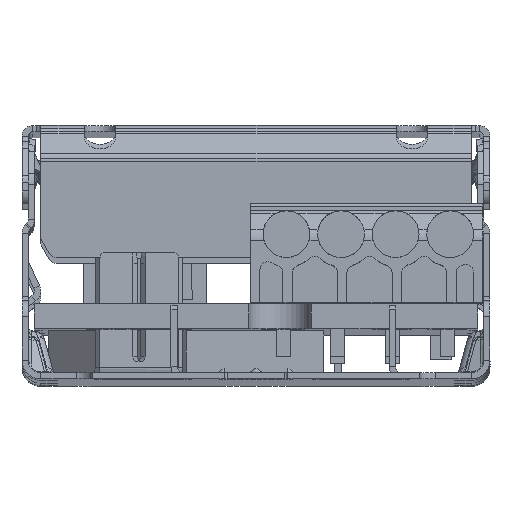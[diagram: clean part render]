
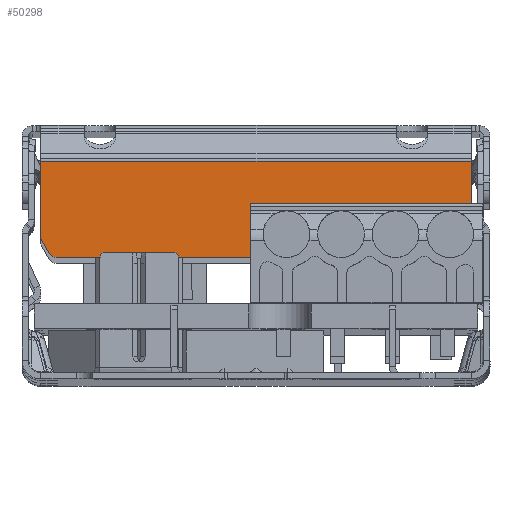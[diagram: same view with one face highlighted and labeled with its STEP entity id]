
A CAD part, top view. The second image highlights one B-rep face of the part: STEP entity #50298.
In plain terms, the highlighted planar face has unit normal (0, 0, 1).
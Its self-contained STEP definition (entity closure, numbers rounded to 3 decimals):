
#45412=DIRECTION('',(-1.,0.,0.));
#45413=VECTOR('',#45412,27.6);
#45414=CARTESIAN_POINT('',(3.925,-43.169,
35.096));
#45415=LINE('',#45414,#45413);
#45420=DIRECTION('',(-1.,0.,0.));
#45421=VECTOR('',#45420,4.6);
#45422=CARTESIAN_POINT('',(-0.075,-49.02,
35.096));
#45423=LINE('',#45422,#45421);
#45424=CARTESIAN_POINT('',(-4.675,-49.22,
35.096));
#45425=DIRECTION('',(0.,0.,1.));
#45426=DIRECTION('',(0.,1.,0.));
#45427=AXIS2_PLACEMENT_3D('',#45424,#45425,#45426);
#45429=DIRECTION('',(0.,-1.,0.));
#45430=VECTOR('',#45429,0.1);
#45431=CARTESIAN_POINT('',(-4.875,-49.22,
35.096));
#45432=LINE('',#45431,#45430);
#45433=DIRECTION('',(-1.,0.,0.));
#45434=VECTOR('',#45433,10.);
#45435=CARTESIAN_POINT('',(-4.875,-49.32,
35.096));
#45436=LINE('',#45435,#45434);
#45437=CARTESIAN_POINT('',(-15.075,-49.22,
35.096));
#45438=DIRECTION('',(0.,0.,1.));
#45439=DIRECTION('',(1.,0.,0.));
#45440=AXIS2_PLACEMENT_3D('',#45437,#45438,#45439);
#45442=DIRECTION('',(-1.,0.,0.));
#45443=VECTOR('',#45442,4.6);
#45444=CARTESIAN_POINT('',(-15.075,-49.02,
35.096));
#45445=LINE('',#45444,#45443);
#45446=CARTESIAN_POINT('',(-19.675,-49.22,
35.096));
#45447=DIRECTION('',(0.,0.,1.));
#45448=DIRECTION('',(0.,1.,0.));
#45449=AXIS2_PLACEMENT_3D('',#45446,#45447,#45448);
#45451=DIRECTION('',(0.,-1.,0.));
#45452=VECTOR('',#45451,0.1);
#45453=CARTESIAN_POINT('',(-19.875,-49.22,
35.096));
#45454=LINE('',#45453,#45452);
#45455=DIRECTION('',(-1.,0.,0.));
#45456=VECTOR('',#45455,2.819);
#45457=CARTESIAN_POINT('',(-19.875,-49.32,
35.096));
#45458=LINE('',#45457,#45456);
#45459=CARTESIAN_POINT('',(-22.693,-48.82,
35.096));
#45460=DIRECTION('',(0.,0.,-1.));
#45461=DIRECTION('',(0.,-1.,0.));
#45462=AXIS2_PLACEMENT_3D('',#45459,#45460,#45461);
#45464=DIRECTION('',(-0.5,0.866,0.));
#45465=VECTOR('',#45464,0.963);
#45466=CARTESIAN_POINT('',(-23.126,-49.07,
35.096));
#45467=LINE('',#45466,#45465);
#45468=CARTESIAN_POINT('',(-23.175,-47.986,
35.096));
#45469=DIRECTION('',(0.,0.,-1.));
#45470=DIRECTION('',(-0.866,-0.5,0.));
#45471=AXIS2_PLACEMENT_3D('',#45468,#45469,#45470);
#45473=DIRECTION('',(0.,1.,0.));
#45474=VECTOR('',#45473,4.817);
#45475=CARTESIAN_POINT('',(-23.675,-47.986,
35.096));
#45476=LINE('',#45475,#45474);
#45477=DIRECTION('',(0.,-1.,0.));
#45478=VECTOR('',#45477,4.817);
#45479=CARTESIAN_POINT('',(3.925,-43.169,
35.096));
#45480=LINE('',#45479,#45478);
#45481=CARTESIAN_POINT('',(3.425,-47.986,
35.096));
#45482=DIRECTION('',(0.,0.,-1.));
#45483=DIRECTION('',(1.,0.,0.));
#45484=AXIS2_PLACEMENT_3D('',#45481,#45482,#45483);
#45486=DIRECTION('',(-0.5,-0.866,0.));
#45487=VECTOR('',#45486,0.963);
#45488=CARTESIAN_POINT('',(3.858,-48.236,
35.096));
#45489=LINE('',#45488,#45487);
#45490=CARTESIAN_POINT('',(2.944,-48.82,
35.096));
#45491=DIRECTION('',(0.,0.,-1.));
#45492=DIRECTION('',(0.866,-0.5,0.));
#45493=AXIS2_PLACEMENT_3D('',#45490,#45491,#45492);
#45495=DIRECTION('',(-1.,0.,0.));
#45496=VECTOR('',#45495,2.819);
#45497=CARTESIAN_POINT('',(2.944,-49.32,
35.096));
#45498=LINE('',#45497,#45496);
#45499=CARTESIAN_POINT('',(-0.075,-49.22,
35.096));
#45500=DIRECTION('',(0.,0.,1.));
#45501=DIRECTION('',(1.,0.,0.));
#45502=AXIS2_PLACEMENT_3D('',#45499,#45500,#45501);
#45516=DIRECTION('',(0.,-1.,0.));
#45517=VECTOR('',#45516,0.1);
#45518=CARTESIAN_POINT('',(0.125,-49.22,
35.096));
#45519=LINE('',#45518,#45517);
#45624=DIRECTION('',(0.,-1.,0.));
#45625=VECTOR('',#45624,0.1);
#45626=CARTESIAN_POINT('',(-14.875,-49.22,
35.096));
#45627=LINE('',#45626,#45625);
#48171=CARTESIAN_POINT('',(-23.675,-43.169,
35.096));
#48172=VERTEX_POINT('',#48171);
#48175=CARTESIAN_POINT('',(3.925,-43.169,
35.096));
#48176=VERTEX_POINT('',#48175);
#48177=CARTESIAN_POINT('',(-0.075,-49.02,
35.096));
#48178=CARTESIAN_POINT('',(-4.675,-49.02,
35.096));
#48179=VERTEX_POINT('',#48177);
#48180=VERTEX_POINT('',#48178);
#48181=CARTESIAN_POINT('',(-4.875,-49.22,
35.096));
#48182=VERTEX_POINT('',#48181);
#48183=CARTESIAN_POINT('',(-4.875,-49.32,
35.096));
#48184=VERTEX_POINT('',#48183);
#48185=CARTESIAN_POINT('',(-14.875,-49.32,
35.096));
#48186=VERTEX_POINT('',#48185);
#48187=CARTESIAN_POINT('',(-14.875,-49.22,
35.096));
#48188=VERTEX_POINT('',#48187);
#48189=CARTESIAN_POINT('',(-15.075,-49.02,
35.096));
#48190=VERTEX_POINT('',#48189);
#48191=CARTESIAN_POINT('',(-19.675,-49.02,
35.096));
#48192=VERTEX_POINT('',#48191);
#48193=CARTESIAN_POINT('',(-19.875,-49.22,
35.096));
#48194=VERTEX_POINT('',#48193);
#48195=CARTESIAN_POINT('',(-19.875,-49.32,
35.096));
#48196=VERTEX_POINT('',#48195);
#48197=CARTESIAN_POINT('',(-22.693,-49.32,
35.096));
#48198=VERTEX_POINT('',#48197);
#48199=CARTESIAN_POINT('',(-23.126,-49.07,35.096));
#48200=VERTEX_POINT('',#48199);
#48201=CARTESIAN_POINT('',(-23.608,-48.236,
35.096));
#48202=VERTEX_POINT('',#48201);
#48203=CARTESIAN_POINT('',(-23.675,-47.986,
35.096));
#48204=VERTEX_POINT('',#48203);
#48205=CARTESIAN_POINT('',(3.925,-47.986,
35.096));
#48206=VERTEX_POINT('',#48205);
#48207=CARTESIAN_POINT('',(3.858,-48.236,
35.096));
#48208=VERTEX_POINT('',#48207);
#48209=CARTESIAN_POINT('',(3.377,-49.07,
35.096));
#48210=VERTEX_POINT('',#48209);
#48211=CARTESIAN_POINT('',(2.944,-49.32,
35.096));
#48212=VERTEX_POINT('',#48211);
#48213=CARTESIAN_POINT('',(0.125,-49.32,
35.096));
#48214=VERTEX_POINT('',#48213);
#48215=CARTESIAN_POINT('',(0.125,-49.22,
35.096));
#48216=VERTEX_POINT('',#48215);
#50248=CARTESIAN_POINT('',(-17.117,-42.479,
35.096));
#50249=DIRECTION('',(0.,0.,-1.));
#50250=DIRECTION('',(1.,0.,0.));
#50251=AXIS2_PLACEMENT_3D('',#50248,#50249,#50250);
#50252=PLANE('',#50251);
#50254=ORIENTED_EDGE('',*,*,#50253,.T.);
#50256=ORIENTED_EDGE('',*,*,#50255,.T.);
#50258=ORIENTED_EDGE('',*,*,#50257,.T.);
#50260=ORIENTED_EDGE('',*,*,#50259,.T.);
#50262=ORIENTED_EDGE('',*,*,#50261,.F.);
#50264=ORIENTED_EDGE('',*,*,#50263,.T.);
#50266=ORIENTED_EDGE('',*,*,#50265,.T.);
#50268=ORIENTED_EDGE('',*,*,#50267,.T.);
#50270=ORIENTED_EDGE('',*,*,#50269,.T.);
#50272=ORIENTED_EDGE('',*,*,#50271,.T.);
#50274=ORIENTED_EDGE('',*,*,#50273,.T.);
#50276=ORIENTED_EDGE('',*,*,#50275,.T.);
#50278=ORIENTED_EDGE('',*,*,#50277,.T.);
#50280=ORIENTED_EDGE('',*,*,#50279,.T.);
#50281=ORIENTED_EDGE('',*,*,#50239,.F.);
#50283=ORIENTED_EDGE('',*,*,#50282,.T.);
#50285=ORIENTED_EDGE('',*,*,#50284,.T.);
#50287=ORIENTED_EDGE('',*,*,#50286,.T.);
#50289=ORIENTED_EDGE('',*,*,#50288,.T.);
#50291=ORIENTED_EDGE('',*,*,#50290,.T.);
#50293=ORIENTED_EDGE('',*,*,#50292,.F.);
#50295=ORIENTED_EDGE('',*,*,#50294,.T.);
#50296=EDGE_LOOP('',(#50254,#50256,#50258,#50260,#50262,#50264,#50266,#50268,
#50270,#50272,#50274,#50276,#50278,#50280,#50281,#50283,#50285,#50287,#50289,
#50291,#50293,#50295));
#50297=FACE_OUTER_BOUND('',#50296,.F.);
#50298=ADVANCED_FACE('',(#50297),#50252,.F.);
#45428=CIRCLE('',#45427,0.2);
#45441=CIRCLE('',#45440,0.2);
#45450=CIRCLE('',#45449,0.2);
#45463=CIRCLE('',#45462,0.5);
#45472=CIRCLE('',#45471,0.5);
#45485=CIRCLE('',#45484,0.5);
#45494=CIRCLE('',#45493,0.5);
#45503=CIRCLE('',#45502,0.2);
#50239=EDGE_CURVE('',#48176,#48172,#45415,.T.);
#50253=EDGE_CURVE('',#48179,#48180,#45423,.T.);
#50255=EDGE_CURVE('',#48180,#48182,#45428,.T.);
#50257=EDGE_CURVE('',#48182,#48184,#45432,.T.);
#50259=EDGE_CURVE('',#48184,#48186,#45436,.T.);
#50261=EDGE_CURVE('',#48188,#48186,#45627,.T.);
#50263=EDGE_CURVE('',#48188,#48190,#45441,.T.);
#50265=EDGE_CURVE('',#48190,#48192,#45445,.T.);
#50267=EDGE_CURVE('',#48192,#48194,#45450,.T.);
#50269=EDGE_CURVE('',#48194,#48196,#45454,.T.);
#50271=EDGE_CURVE('',#48196,#48198,#45458,.T.);
#50273=EDGE_CURVE('',#48198,#48200,#45463,.T.);
#50275=EDGE_CURVE('',#48200,#48202,#45467,.T.);
#50277=EDGE_CURVE('',#48202,#48204,#45472,.T.);
#50279=EDGE_CURVE('',#48204,#48172,#45476,.T.);
#50282=EDGE_CURVE('',#48176,#48206,#45480,.T.);
#50284=EDGE_CURVE('',#48206,#48208,#45485,.T.);
#50286=EDGE_CURVE('',#48208,#48210,#45489,.T.);
#50288=EDGE_CURVE('',#48210,#48212,#45494,.T.);
#50290=EDGE_CURVE('',#48212,#48214,#45498,.T.);
#50292=EDGE_CURVE('',#48216,#48214,#45519,.T.);
#50294=EDGE_CURVE('',#48216,#48179,#45503,.T.);
